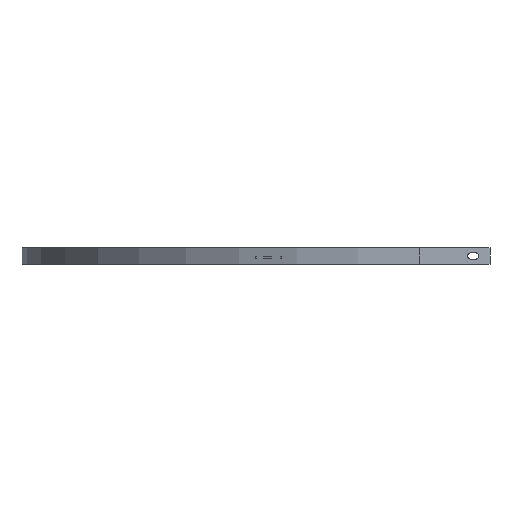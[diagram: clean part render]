
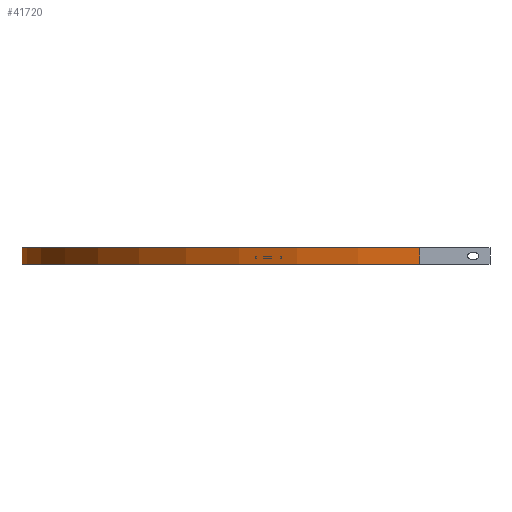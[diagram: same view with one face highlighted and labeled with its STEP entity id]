
A CAD part, left-side view. The second image highlights one B-rep face of the part: STEP entity #41720.
In plain terms, the highlighted cylindrical face has radius 710 mm (diameter 1420 mm), a partial arc.
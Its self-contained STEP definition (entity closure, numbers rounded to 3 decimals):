
#37460=CARTESIAN_POINT('',(0.,0.,0.));
#37470=DIRECTION('',(0.,0.,1.));
#37480=DIRECTION('',(1.,0.,0.));
#37490=AXIS2_PLACEMENT_3D('',#37460,#37470,#37480);
#37500=CIRCLE('',#37490,710.);
#37510=CARTESIAN_POINT('',(0.,710.,0.));
#37520=VERTEX_POINT('',#37510);
#37530=CARTESIAN_POINT('',(-710.,0.,0.));
#37540=VERTEX_POINT('',#37530);
#37550=EDGE_CURVE('',#37520,#37540,#37500,.T.);
#39640=CARTESIAN_POINT('',(-710.,0.,-30.));
#39650=VERTEX_POINT('',#39640);
#39960=CARTESIAN_POINT('',(0.,710.,-30.));
#39970=VERTEX_POINT('',#39960);
#40000=CARTESIAN_POINT('',(0.,0.,-30.));
#40010=DIRECTION('',(0.,0.,1.));
#40020=DIRECTION('',(1.,0.,0.));
#40030=AXIS2_PLACEMENT_3D('',#40000,#40010,#40020);
#40040=CIRCLE('',#40030,710.);
#40050=EDGE_CURVE('',#39970,#39650,#40040,.T.);
#41090=CARTESIAN_POINT('',(0.,710.,0.));
#41100=DIRECTION('',(0.,0.,-1.));
#41110=VECTOR('',#41100,1.);
#41120=LINE('',#41090,#41110);
#41130=EDGE_CURVE('',#37520,#39970,#41120,.T.);
#41560=CARTESIAN_POINT('',(0.,0.,0.));
#41570=DIRECTION('',(0.,0.,1.));
#41580=DIRECTION('',(1.,0.,0.));
#41590=AXIS2_PLACEMENT_3D('',#41560,#41570,#41580);
#41600=CYLINDRICAL_SURFACE('',#41590,710.);
#41610=ORIENTED_EDGE('',*,*,#37550,.F.);
#41620=CARTESIAN_POINT('',(-710.,0.,0.));
#41630=DIRECTION('',(0.,0.,-1.));
#41640=VECTOR('',#41630,1.);
#41650=LINE('',#41620,#41640);
#41660=EDGE_CURVE('',#37540,#39650,#41650,.T.);
#41670=ORIENTED_EDGE('',*,*,#41660,.F.);
#41680=ORIENTED_EDGE('',*,*,#40050,.T.);
#41690=ORIENTED_EDGE('',*,*,#41130,.T.);
#41700=EDGE_LOOP('',(#41690,#41680,#41670,#41610));
#41710=FACE_OUTER_BOUND('',#41700,.T.);
#41720=ADVANCED_FACE('',(#41710),#41600,.T.);
